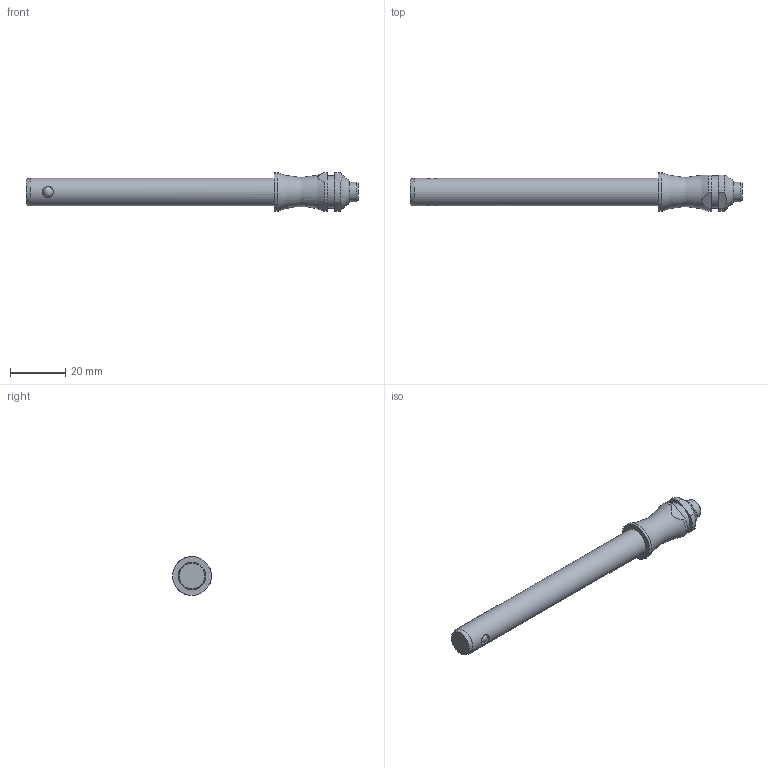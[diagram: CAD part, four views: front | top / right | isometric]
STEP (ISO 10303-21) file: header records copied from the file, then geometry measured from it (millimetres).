
FILE_DESCRIPTION( ( 'STEP AP203' ), '1' );
FILE_NAME( 'C:/Temp/Ganter_Step_05_03_2020/data/3_1/gn113_3/Stainless Steel-Ball lock pin GN 113.3-10-80 (activated).stp', '2020-03-12T08:18:37', ( 'License CC BY-ND 4.0' ), ( 'CADENAS' ), ' ', 'PARTsolutions', ' ' );
FILE_SCHEMA( ( 'CONFIG_CONTROL_DESIGN' ) );
Length unit declared in the file: millimetre
Products named in the file (1): _Stainless Steel-Ball lock pin GN 113.3-10-80 (activated)
Bounding box: 119.75 x 14 x 14 mm (x, y, z)
Volume: 10115.1 mm3; surface area: 4265.8 mm2
Topology: 1 solids, 1 shells, 30 faces, 72 edges, 45 vertices
Faces by surface type: cylinder 12, plane 11, cone 3, torus 2, sphere 2
Full cylindrical faces by diameter (mm): 4 x2, 7 x1, 10 x1, 11.6 x1, 14 x1
Entity records: 988 total; most frequent: CARTESIAN_POINT 341, DIRECTION 130, ORIENTED_EDGE 102, AXIS2_PLACEMENT_3D 56, EDGE_CURVE 51, EDGE_LOOP 46, VERTEX_POINT 39, FACE_OUTER_BOUND 38
